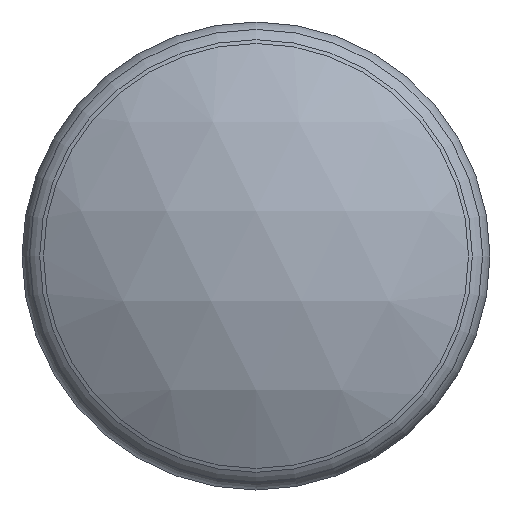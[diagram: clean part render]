
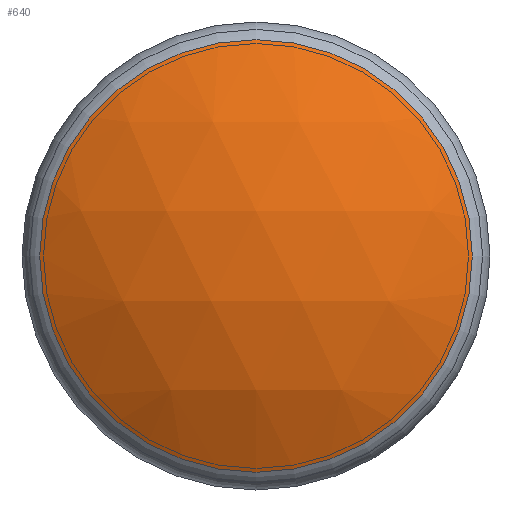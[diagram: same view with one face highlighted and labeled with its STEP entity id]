
A CAD part, front view. The second image highlights one B-rep face of the part: STEP entity #640.
In plain terms, the highlighted spherical face has radius 200 mm.
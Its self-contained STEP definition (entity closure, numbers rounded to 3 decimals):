
#31=SPHERICAL_SURFACE('',#732,200.);
#188=FACE_OUTER_BOUND('',#273,.T.);
#273=EDGE_LOOP('',(#540));
#351=CIRCLE('',#733,101.833);
#404=VERTEX_POINT('',#1113);
#457=EDGE_CURVE('',#404,#404,#351,.T.);
#540=ORIENTED_EDGE('',*,*,#457,.F.);
#640=ADVANCED_FACE('',(#188),#31,.T.);
#732=AXIS2_PLACEMENT_3D('',#1112,#911,#912);
#733=AXIS2_PLACEMENT_3D('',#1114,#913,#914);
#911=DIRECTION('center_axis',(0.,0.,1.));
#912=DIRECTION('ref_axis',(1.,0.,0.));
#913=DIRECTION('center_axis',(0.,1.,0.));
#914=DIRECTION('ref_axis',(1.,0.,0.));
#1112=CARTESIAN_POINT('Origin',(0.,200.,0.));
#1113=CARTESIAN_POINT('',(-101.833,27.866,0.));
#1114=CARTESIAN_POINT('Origin',(0.,27.866,0.));
